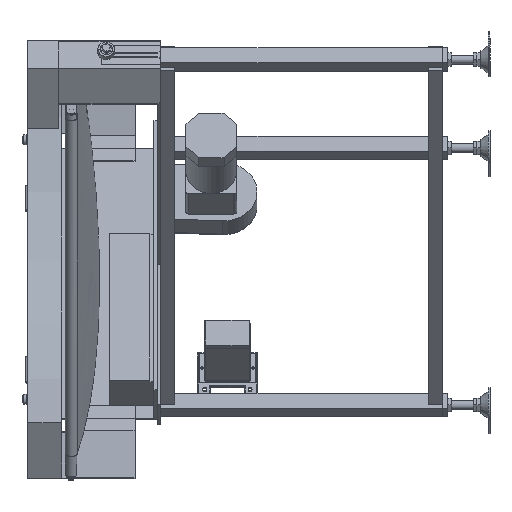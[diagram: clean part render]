
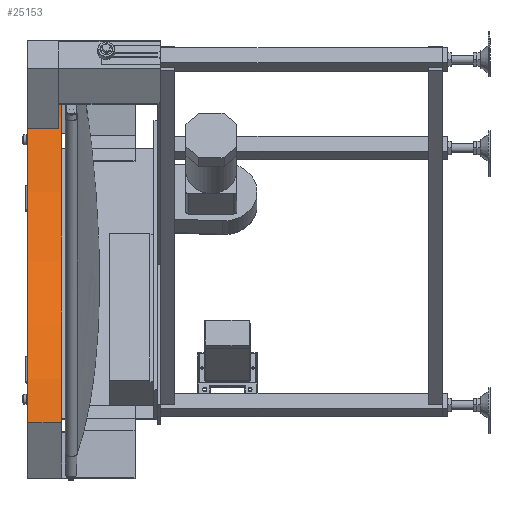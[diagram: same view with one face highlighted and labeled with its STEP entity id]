
A CAD part, left-side view. The second image highlights one B-rep face of the part: STEP entity #25153.
In plain terms, the highlighted cylindrical face has radius 780 mm (diameter 1560 mm), a partial arc.
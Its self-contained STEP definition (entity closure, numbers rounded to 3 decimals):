
#562 = CARTESIAN_POINT ( 'NONE',  ( 780., 68., 0. ) ) ;
#731 = CARTESIAN_POINT ( 'NONE',  ( 780., 8., 0. ) ) ;
#957 = DIRECTION ( 'NONE',  ( -1., 0., 0. ) ) ;
#2480 = CARTESIAN_POINT ( 'NONE',  ( 390., 8., -675.5 ) ) ;
#2711 = CARTESIAN_POINT ( 'NONE',  ( 0., 0., 0. ) ) ;
#3527 = VERTEX_POINT ( 'NONE', #13778 ) ;
#5108 = EDGE_CURVE ( 'NONE', #3527, #19520, #20584, .T. ) ;
#5379 = EDGE_LOOP ( 'NONE', ( #32619, #14546, #8354, #6373 ) ) ;
#6373 = ORIENTED_EDGE ( 'NONE', *, *, #5108, .F. ) ;
#7358 = CARTESIAN_POINT ( 'NONE',  ( 780., 0., 0. ) ) ;
#8234 = DIRECTION ( 'NONE',  ( 0., 1., 0. ) ) ;
#8354 = ORIENTED_EDGE ( 'NONE', *, *, #26040, .T. ) ;
#9828 = AXIS2_PLACEMENT_3D ( 'NONE', #13844, #32312, #11424 ) ;
#11424 = DIRECTION ( 'NONE',  ( 1., 0., 0. ) ) ;
#13778 = CARTESIAN_POINT ( 'NONE',  ( 390., 68., -675.5 ) ) ;
#13844 = CARTESIAN_POINT ( 'NONE',  ( 0., 68., 0. ) ) ;
#14546 = ORIENTED_EDGE ( 'NONE', *, *, #25750, .F. ) ;
#15381 = VERTEX_POINT ( 'NONE', #731 ) ;
#15525 = VECTOR ( 'NONE', #28356, 1000. ) ;
#15882 = VECTOR ( 'NONE', #30760, 1000. ) ;
#17680 = EDGE_CURVE ( 'NONE', #25168, #3527, #22900, .T. ) ;
#18284 = DIRECTION ( 'NONE',  ( 1., 0., 0. ) ) ;
#19520 = VERTEX_POINT ( 'NONE', #562 ) ;
#19932 = CARTESIAN_POINT ( 'NONE',  ( 390., 0., -675.5 ) ) ;
#20584 = CIRCLE ( 'NONE', #9828, 780. ) ;
#20927 = CIRCLE ( 'NONE', #23790, 780. ) ;
#21772 = FACE_OUTER_BOUND ( 'NONE', #5379, .T. ) ;
#22555 = LINE ( 'NONE', #7358, #15525 ) ;
#22900 = LINE ( 'NONE', #19932, #15882 ) ;
#23790 = AXIS2_PLACEMENT_3D ( 'NONE', #24691, #27337, #957 ) ;
#24691 = CARTESIAN_POINT ( 'NONE',  ( 0., 8., 0. ) ) ;
#25153 = ADVANCED_FACE ( 'NONE', ( #21772 ), #32909, .F. ) ;
#25168 = VERTEX_POINT ( 'NONE', #2480 ) ;
#25750 = EDGE_CURVE ( 'NONE', #15381, #25168, #20927, .T. ) ;
#26040 = EDGE_CURVE ( 'NONE', #15381, #19520, #22555, .T. ) ;
#27337 = DIRECTION ( 'NONE',  ( 0., 1., 0. ) ) ;
#28356 = DIRECTION ( 'NONE',  ( 0., 1., 0. ) ) ;
#30760 = DIRECTION ( 'NONE',  ( 0., 1., 0. ) ) ;
#32312 = DIRECTION ( 'NONE',  ( 0., -1., 0. ) ) ;
#32619 = ORIENTED_EDGE ( 'NONE', *, *, #17680, .F. ) ;
#32909 = CYLINDRICAL_SURFACE ( 'NONE', #33936, 780. ) ;
#33936 = AXIS2_PLACEMENT_3D ( 'NONE', #2711, #8234, #18284 ) ;
